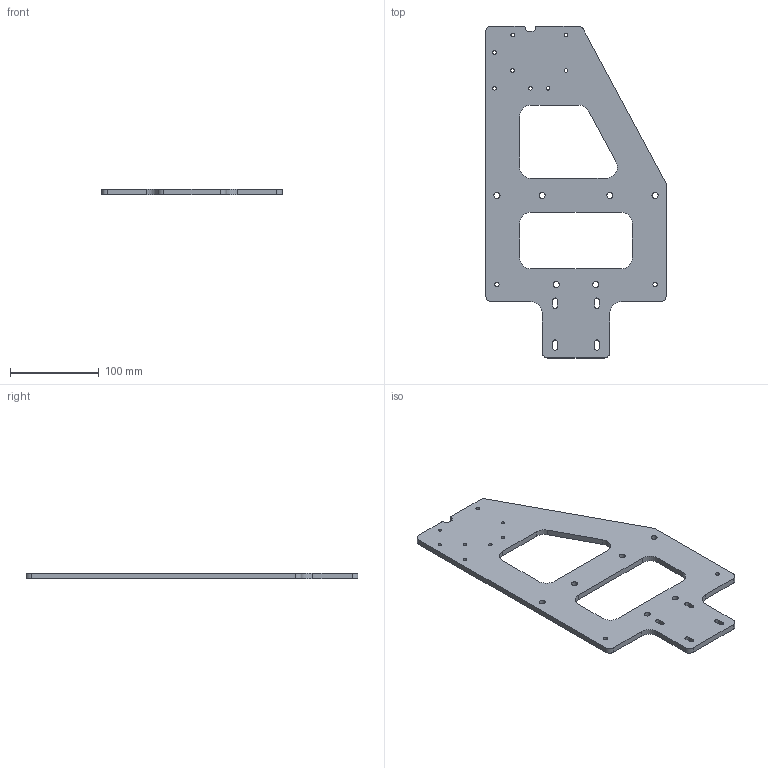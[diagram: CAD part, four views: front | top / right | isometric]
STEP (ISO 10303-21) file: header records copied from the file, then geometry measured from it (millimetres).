
FILE_DESCRIPTION (( 'STEP AP203' ), '1' );
FILE_NAME ('Side Plate.STEP', '2014-01-27T21:31:16', ( 'Neil' ), ( 'Hewlett-Packard Company' ), 'SwSTEP 2.0', 'SolidWorks 2010', '' );
FILE_SCHEMA (( 'CONFIG_CONTROL_DESIGN' ));
Length unit declared in the file: inch
Products named in the file (1): Side Plate
Bounding box: 203.2 x 373.38 x 6.35 mm (x, y, z)
Volume: 273210.9 mm3; surface area: 99651.9 mm2
Topology: 1 solids, 1 shells, 92 faces, 270 edges, 180 vertices
Faces by surface type: cylinder 59, plane 33
Entity records: 3279 total; most frequent: DIRECTION 574, CARTESIAN_POINT 543, ORIENTED_EDGE 540, EDGE_CURVE 270, AXIS2_PLACEMENT_3D 211, VERTEX_POINT 180, VECTOR 152, LINE 152
